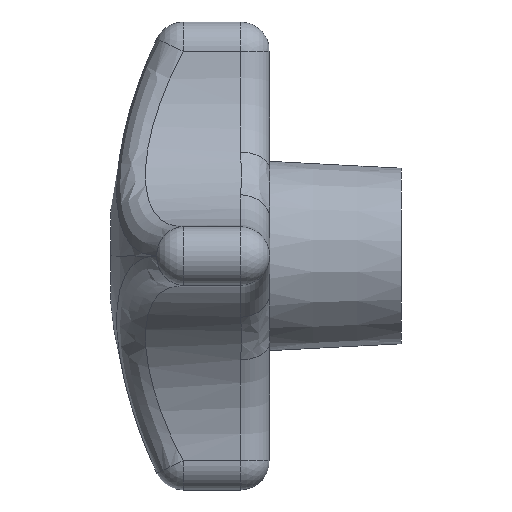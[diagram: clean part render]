
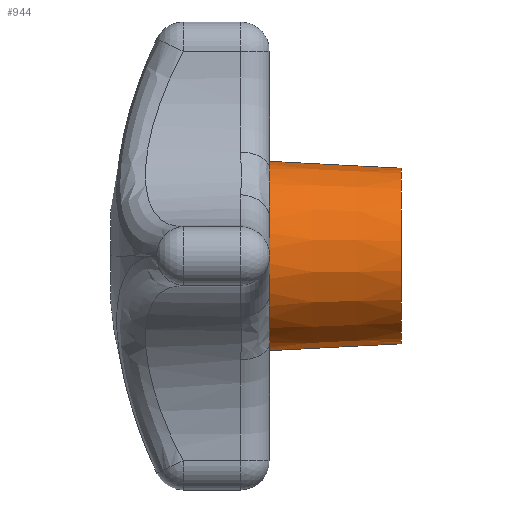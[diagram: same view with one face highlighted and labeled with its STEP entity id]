
A CAD part, left-side view. The second image highlights one B-rep face of the part: STEP entity #944.
In plain terms, the highlighted conical face has half-angle 3 degrees and reference radius 6 mm.
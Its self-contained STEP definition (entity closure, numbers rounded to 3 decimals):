
#744 = VERTEX_POINT ( 'NONE', #2404 ) ;
#750 = EDGE_CURVE ( 'NONE', #836, #744, #2445, .T. ) ;
#754 = EDGE_CURVE ( 'NONE', #755, #903, #2437, .T. ) ;
#755 = VERTEX_POINT ( 'NONE', #2429 ) ;
#832 = VERTEX_POINT ( 'NONE', #2644 ) ;
#833 = VERTEX_POINT ( 'NONE', #2643 ) ;
#835 = EDGE_CURVE ( 'NONE', #833, #836, #2642, .T. ) ;
#836 = VERTEX_POINT ( 'NONE', #2638 ) ;
#864 = EDGE_LOOP ( 'NONE', ( #879, #880, #882, #883, #884, #910, #911, #913 ) ) ;
#879 = ORIENTED_EDGE ( 'NONE', *, *, #835, .F. ) ;
#880 = ORIENTED_EDGE ( 'NONE', *, *, #881, .T. ) ;
#881 = EDGE_CURVE ( 'NONE', #833, #832, #2685, .T. ) ;
#882 = ORIENTED_EDGE ( 'NONE', *, *, #905, .T. ) ;
#883 = ORIENTED_EDGE ( 'NONE', *, *, #754, .F. ) ;
#884 = ORIENTED_EDGE ( 'NONE', *, *, #909, .F. ) ;
#903 = VERTEX_POINT ( 'NONE', #2755 ) ;
#905 = EDGE_CURVE ( 'NONE', #832, #903, #2754, .T. ) ;
#909 = EDGE_CURVE ( 'NONE', #937, #755, #2805, .T. ) ;
#910 = ORIENTED_EDGE ( 'NONE', *, *, #943, .F. ) ;
#911 = ORIENTED_EDGE ( 'NONE', *, *, #912, .F. ) ;
#912 = EDGE_CURVE ( 'NONE', #744, #941, #2800, .T. ) ;
#913 = ORIENTED_EDGE ( 'NONE', *, *, #750, .F. ) ;
#937 = VERTEX_POINT ( 'NONE', #2846 ) ;
#941 = VERTEX_POINT ( 'NONE', #2839 ) ;
#943 = EDGE_CURVE ( 'NONE', #941, #937, #2838, .T. ) ;
#944 = ADVANCED_FACE ( 'NONE', ( #2833 ), #2832, .T. ) ;
#2124 = DIRECTION ( 'NONE',  ( 0., 0., 1. ) ) ;
#2404 = CARTESIAN_POINT ( 'NONE',  ( -2.546, 0., -5.95 ) ) ;
#2429 = CARTESIAN_POINT ( 'NONE',  ( -2.546, 0., 5.95 ) ) ;
#2430 = DIRECTION ( 'NONE',  ( 0., 0., 1. ) ) ;
#2431 = DIRECTION ( 'NONE',  ( 0., 1., 0. ) ) ;
#2432 = CARTESIAN_POINT ( 'NONE',  ( 0., 0., 0. ) ) ;
#2433 = AXIS2_PLACEMENT_3D ( 'NONE', #2432, #2431, #2430 ) ;
#2437 = CIRCLE ( 'NONE', #2433, 6.472 ) ;
#2441 = DIRECTION ( 'NONE',  ( 0., 0., 1. ) ) ;
#2442 = DIRECTION ( 'NONE',  ( 0., 1., 0. ) ) ;
#2443 = CARTESIAN_POINT ( 'NONE',  ( 0., 0., 0. ) ) ;
#2444 = AXIS2_PLACEMENT_3D ( 'NONE', #2443, #2442, #2441 ) ;
#2445 = CIRCLE ( 'NONE', #2444, 6.472 ) ;
#2638 = CARTESIAN_POINT ( 'NONE',  ( 0., 0., -6.472 ) ) ;
#2639 = DIRECTION ( 'NONE',  ( 0., 0.999, -0.052 ) ) ;
#2640 = VECTOR ( 'NONE', #2639, 1000. ) ;
#2641 = CARTESIAN_POINT ( 'NONE',  ( 0., -9., -6. ) ) ;
#2642 = LINE ( 'NONE', #2641, #2640 ) ;
#2643 = CARTESIAN_POINT ( 'NONE',  ( 0., -9., -6. ) ) ;
#2644 = CARTESIAN_POINT ( 'NONE',  ( 0., -9., 6. ) ) ;
#2682 = DIRECTION ( 'NONE',  ( 0., 1., 0. ) ) ;
#2683 = CARTESIAN_POINT ( 'NONE',  ( 0., -9., 0. ) ) ;
#2684 = AXIS2_PLACEMENT_3D ( 'NONE', #2683, #2682, #2124 ) ;
#2685 = CIRCLE ( 'NONE', #2684, 6. ) ;
#2751 = DIRECTION ( 'NONE',  ( 0., 0.999, 0.052 ) ) ;
#2752 = VECTOR ( 'NONE', #2751, 1000. ) ;
#2753 = CARTESIAN_POINT ( 'NONE',  ( 0., -9., 6. ) ) ;
#2754 = LINE ( 'NONE', #2753, #2752 ) ;
#2755 = CARTESIAN_POINT ( 'NONE',  ( 0., 0., 6.472 ) ) ;
#2796 = DIRECTION ( 'NONE',  ( 0., 0., 1. ) ) ;
#2797 = DIRECTION ( 'NONE',  ( 0., 1., 0. ) ) ;
#2798 = CARTESIAN_POINT ( 'NONE',  ( 0., 0., 0. ) ) ;
#2799 = AXIS2_PLACEMENT_3D ( 'NONE', #2798, #2797, #2796 ) ;
#2800 = CIRCLE ( 'NONE', #2799, 6.472 ) ;
#2801 = DIRECTION ( 'NONE',  ( 0., 0., 1. ) ) ;
#2802 = DIRECTION ( 'NONE',  ( 0., 1., 0. ) ) ;
#2803 = CARTESIAN_POINT ( 'NONE',  ( 0., 0., 0. ) ) ;
#2804 = AXIS2_PLACEMENT_3D ( 'NONE', #2803, #2802, #2801 ) ;
#2805 = CIRCLE ( 'NONE', #2804, 6.472 ) ;
#2832 = CONICAL_SURFACE ( 'NONE', #2904, 6., 0.052 ) ;
#2833 = FACE_OUTER_BOUND ( 'NONE', #864, .T. ) ;
#2834 = DIRECTION ( 'NONE',  ( 0., 0., 1. ) ) ;
#2835 = DIRECTION ( 'NONE',  ( 0., 1., 0. ) ) ;
#2836 = CARTESIAN_POINT ( 'NONE',  ( 0., 0., 0. ) ) ;
#2837 = AXIS2_PLACEMENT_3D ( 'NONE', #2836, #2835, #2834 ) ;
#2838 = CIRCLE ( 'NONE', #2837, 6.472 ) ;
#2839 = CARTESIAN_POINT ( 'NONE',  ( -5.95, 0., -2.546 ) ) ;
#2846 = CARTESIAN_POINT ( 'NONE',  ( -5.95, 0., 2.546 ) ) ;
#2900 = DIRECTION ( 'NONE',  ( 0., 0., 1. ) ) ;
#2901 = DIRECTION ( 'NONE',  ( 0., 1., 0. ) ) ;
#2903 = CARTESIAN_POINT ( 'NONE',  ( 0., -9., 0. ) ) ;
#2904 = AXIS2_PLACEMENT_3D ( 'NONE', #2903, #2901, #2900 ) ;
